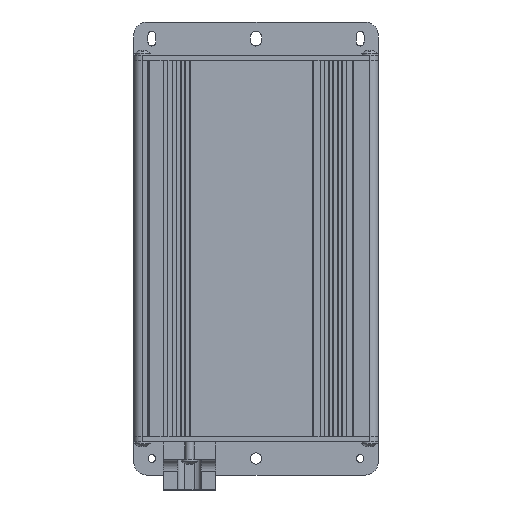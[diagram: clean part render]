
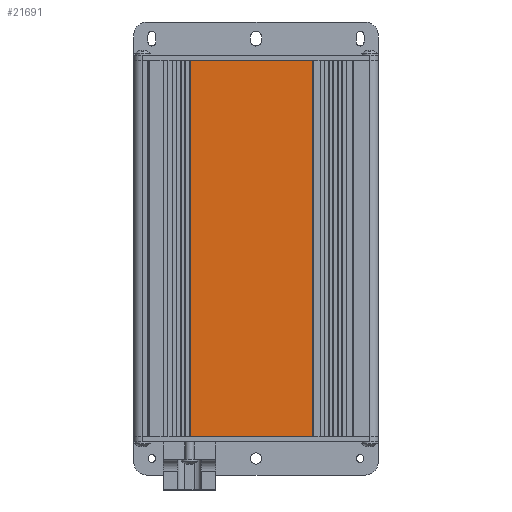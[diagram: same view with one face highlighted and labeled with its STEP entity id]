
A CAD part, left-side view. The second image highlights one B-rep face of the part: STEP entity #21691.
In plain terms, the highlighted planar face has unit normal (-1, 0, 0).
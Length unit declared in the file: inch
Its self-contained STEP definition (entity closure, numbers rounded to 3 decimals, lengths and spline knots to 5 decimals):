
#559=LINE('',#32568,#2297);
#1675=LINE('',#43521,#3413);
#1829=LINE('',#43962,#3567);
#1830=LINE('',#43964,#3568);
#2297=VECTOR('',#25002,0.3937);
#3413=VECTOR('',#28860,0.3937);
#3567=VECTOR('',#29344,0.3937);
#3568=VECTOR('',#29347,0.3937);
#5492=FACE_OUTER_BOUND('',#6724,.T.);
#6724=EDGE_LOOP('',(#18714,#18715,#18716,#18717));
#8353=VERTEX_POINT('',#32565);
#8354=VERTEX_POINT('',#32567);
#9879=VERTEX_POINT('',#43518);
#9880=VERTEX_POINT('',#43520);
#10604=EDGE_CURVE('',#8353,#8354,#559,.T.);
#12761=EDGE_CURVE('',#9880,#9879,#1675,.T.);
#12989=EDGE_CURVE('',#9879,#8354,#1829,.T.);
#12990=EDGE_CURVE('',#9880,#8353,#1830,.T.);
#18714=ORIENTED_EDGE('',*,*,#12761,.T.);
#18715=ORIENTED_EDGE('',*,*,#12989,.T.);
#18716=ORIENTED_EDGE('',*,*,#10604,.F.);
#18717=ORIENTED_EDGE('',*,*,#12990,.F.);
#20008=PLANE('',#23795);
#21691=ADVANCED_FACE('',(#5492),#20008,.T.);
#23795=AXIS2_PLACEMENT_3D('',#43963,#29345,#29346);
#25002=DIRECTION('',(0.,-1.,0.));
#28860=DIRECTION('',(0.,-1.,0.));
#29344=DIRECTION('',(0.,0.,1.));
#29345=DIRECTION('center_axis',(-1.,0.,0.));
#29346=DIRECTION('ref_axis',(0.,-1.,0.));
#29347=DIRECTION('',(0.,0.,1.));
#32565=CARTESIAN_POINT('',(2.25531,6.36932,8.46457));
#32567=CARTESIAN_POINT('',(2.25531,3.61342,8.46457));
#32568=CARTESIAN_POINT('',(2.25531,6.36932,8.46457));
#43518=CARTESIAN_POINT('',(2.25531,3.61342,0.));
#43520=CARTESIAN_POINT('',(2.25531,6.36932,0.));
#43521=CARTESIAN_POINT('',(2.25531,6.36932,0.));
#43962=CARTESIAN_POINT('',(2.25531,3.61342,0.));
#43963=CARTESIAN_POINT('Origin',(2.25531,6.36932,0.));
#43964=CARTESIAN_POINT('',(2.25531,6.36932,0.));
